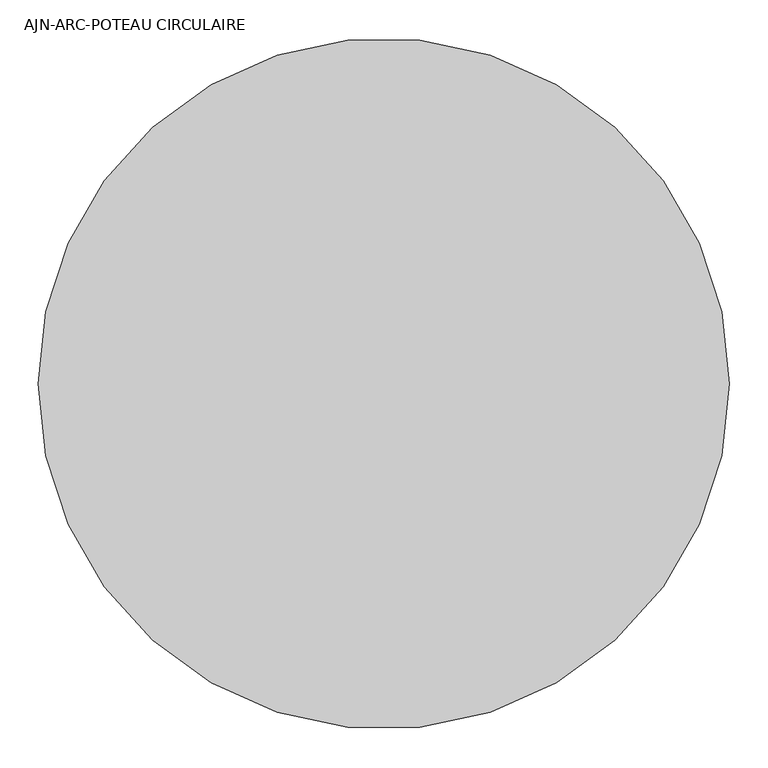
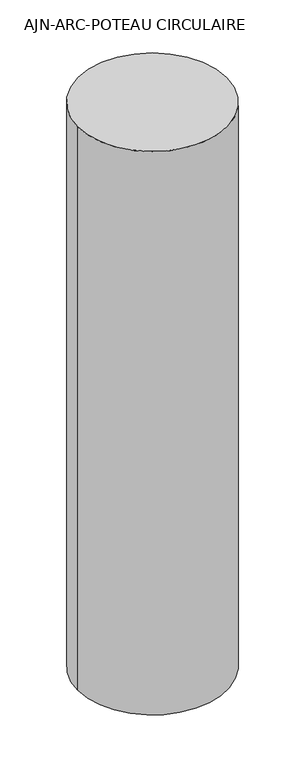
"""IFC4 building model written with IfcOpenShell, lengths in millimetres: column geometry, AJN-ARC-POTEAU CIRCULAIRE : ø90."""

from ifc_helpers import new_model, si_unit, point, frame, origin, origin_2d, place, context, project, spatial, circle_curve, trimmed, segment, composite_curve, outline, extrude, source, transform, mapped, element, save


def ajn_arc_poteau_circulaire_03b0aea2(model_context):
    return source(origin(), model_context, "Body", "SweptSolid", [
        extrude(outline(composite_curve([segment(trimmed(circle_curve(origin_2d(), 450.0), [point((-450.0, 0.0))], [point((450.0, 0.0))], False, "CARTESIAN"), True, "CONTINUOUS"), segment(trimmed(circle_curve(origin_2d(), 450.0), [point((450.0, 0.0))], [point((-450.0, 0.0))], False, "CARTESIAN"), True, "CONTINUOUS")], self_intersect=False)), frame((0.0, 0.0, 42399.9999686), z_axis=(0.0, 0.0, 1.0), x_axis=(1.0, 0.0, 0.0)), (0.0, 0.0, 1.0), 3600.0),
    ])


if __name__ == "__main__":
    model = new_model("IFC4")
    model_context = context("Model", 3, world=origin())
    ifc_project = project(units=[si_unit("LENGTHUNIT", "METRE", prefix="MILLI")], contexts=[model_context])
    site = spatial("IfcSite", under=ifc_project)
    building = spatial("IfcBuilding", under=site)
    placement = place(None, origin())
    ajn_arc_poteau_circulaire_shape = ajn_arc_poteau_circulaire_03b0aea2(model_context)
    element("IfcColumn", 1, ObjectType="AJN-ARC-POTEAU CIRCULAIRE : ø90", at=placement, inside=building, context=model_context, shape_type="MappedRepresentation", body=[
        mapped(ajn_arc_poteau_circulaire_shape, transform((0.0, 0.0, 0.0), x_axis=(1.0, 0.0, 0.0), y_axis=(0.0, 1.0, 0.0), z_axis=(0.0, 0.0, 1.0))),
    ])
    save(model, "model.ifc")
